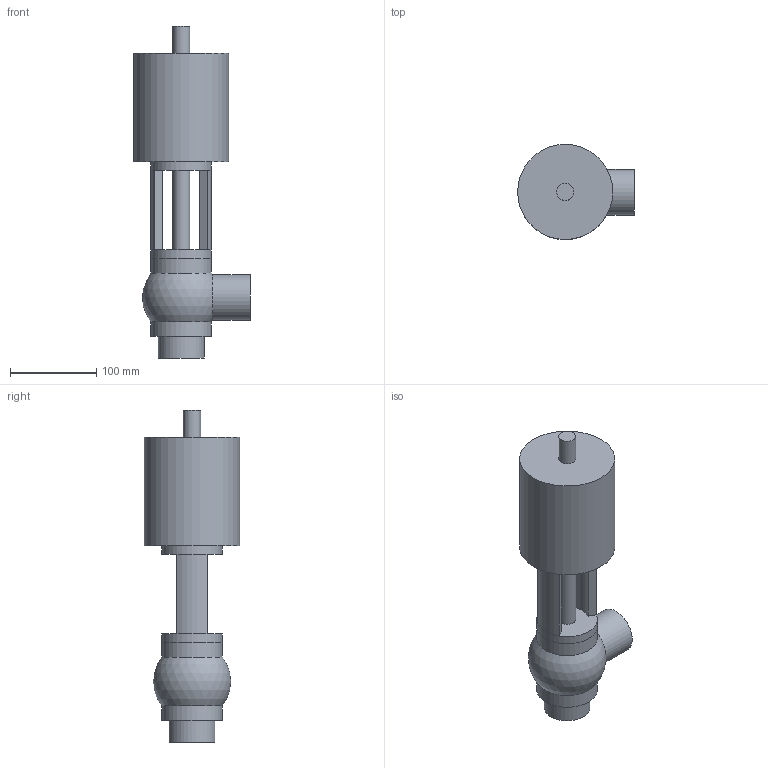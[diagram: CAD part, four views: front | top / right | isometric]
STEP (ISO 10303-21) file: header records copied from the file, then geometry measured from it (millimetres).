
FILE_DESCRIPTION(('FreeCAD Model'),'2;1');
FILE_NAME('/home/martin/Documents/proyect/valves/stp/valve_L_DN-50.step' ,'2018-01-12T21:56:42',('Author'),(''), 'Open CASCADE STEP processor 6.8','FreeCAD','Unknown');
FILE_SCHEMA(('AUTOMOTIVE_DESIGN_CC2 { 1 2 10303 214 -1 1 5 4 }'));
Length unit declared in the file: millimetre
Products named in the file (3): ASSEMBLY; valve_L_DN-50-body; valve_L_DN-50-head
Assembly tree (2 placements, depth 2):
  ASSEMBLY
    valve_L_DN-50-body
    valve_L_DN-50-head
Bounding box: 135 x 110 x 384 mm (x, y, z)
Volume: 1563861.6 mm3; surface area: 161877.5 mm2
Topology: 2 solids, 2 shells, 33 faces, 74 edges, 46 vertices
Faces by surface type: cylinder 16, plane 15, sphere 2
Full cylindrical faces by diameter (mm): 20 x2, 50 x2, 53 x2, 70 x4, 110 x1
Entity records: 2125 total; most frequent: CARTESIAN_POINT 421, DIRECTION 324, ORIENTED_EDGE 146, PCURVE 146, DEFINITIONAL_REPRESENTATION 146, LINE 135, VECTOR 135, AXIS2_PLACEMENT_3D 81
